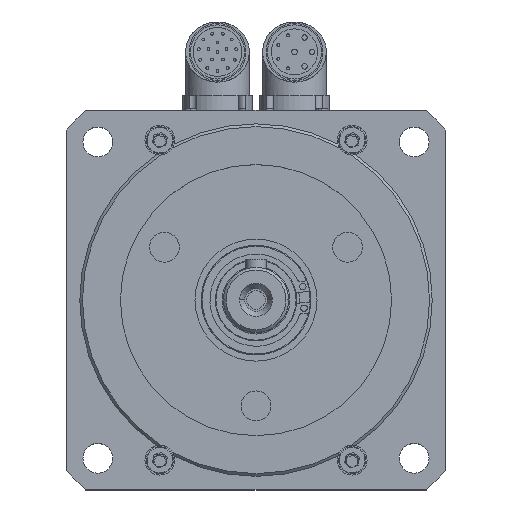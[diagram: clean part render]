
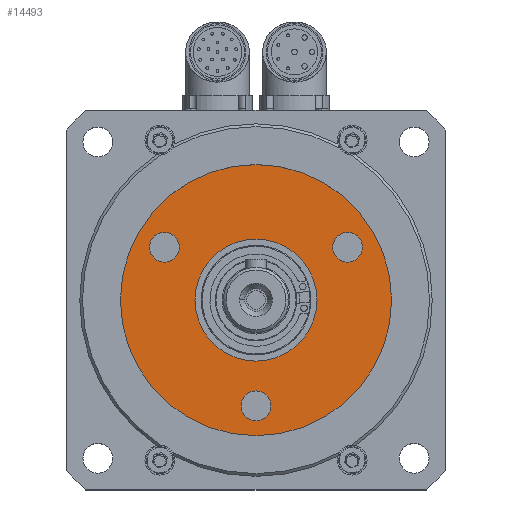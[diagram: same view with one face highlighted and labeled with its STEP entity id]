
A CAD part, top view. The second image highlights one B-rep face of the part: STEP entity #14493.
In plain terms, the highlighted planar face has unit normal (0, 0, 1).
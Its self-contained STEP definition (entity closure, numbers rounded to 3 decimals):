
#413 = AXIS2_PLACEMENT_3D ( 'NONE', #2656, #2657, #2658 ) ;
#414 = AXIS2_PLACEMENT_3D ( 'NONE', #2639, #2654, #2655 ) ;
#415 = AXIS2_PLACEMENT_3D ( 'NONE', #2662, #2663, #2664 ) ;
#416 = AXIS2_PLACEMENT_3D ( 'NONE', #2665, #2666, #2667 ) ;
#536 = AXIS2_PLACEMENT_3D ( 'NONE', #7152, #7153, #7154 ) ;
#539 = AXIS2_PLACEMENT_3D ( 'NONE', #7157, #7166, #7167 ) ;
#542 = AXIS2_PLACEMENT_3D ( 'NONE', #7109, #7163, #7164 ) ;
#546 = AXIS2_PLACEMENT_3D ( 'NONE', #7171, #7178, #7179 ) ;
#548 = AXIS2_PLACEMENT_3D ( 'NONE', #7177, #7184, #7185 ) ;
#550 = AXIS2_PLACEMENT_3D ( 'NONE', #7183, #7190, #7191 ) ;
#2639 = CARTESIAN_POINT ( 'NONE',  ( 33.775, 19.5, 21.5 ) ) ;
#2654 = DIRECTION ( 'NONE',  ( 0., 0., 1. ) ) ;
#2655 = DIRECTION ( 'NONE',  ( 1., 0., 0. ) ) ;
#2656 = CARTESIAN_POINT ( 'NONE',  ( 0., 0., 21.5 ) ) ;
#2657 = DIRECTION ( 'NONE',  ( 0., 0., 1. ) ) ;
#2658 = DIRECTION ( 'NONE',  ( 1., 0., 0. ) ) ;
#2662 = CARTESIAN_POINT ( 'NONE',  ( 0., -39., 21.5 ) ) ;
#2663 = DIRECTION ( 'NONE',  ( 0., 0., 1. ) ) ;
#2664 = DIRECTION ( 'NONE',  ( 1., 0., 0. ) ) ;
#2665 = CARTESIAN_POINT ( 'NONE',  ( -33.775, 19.5, 21.5 ) ) ;
#2666 = DIRECTION ( 'NONE',  ( 0., 0., 1. ) ) ;
#2667 = DIRECTION ( 'NONE',  ( 1., 0., 0. ) ) ;
#2741 = CARTESIAN_POINT ( 'NONE',  ( 22.5, 0., 21.5 ) ) ;
#2742 = CARTESIAN_POINT ( 'NONE',  ( -22.5, 0., 21.5 ) ) ;
#2745 = CARTESIAN_POINT ( 'NONE',  ( 5.5, -39., 21.5 ) ) ;
#2747 = CARTESIAN_POINT ( 'NONE',  ( -5.5, -39., 21.5 ) ) ;
#2749 = CARTESIAN_POINT ( 'NONE',  ( 28.275, 19.5, 21.5 ) ) ;
#2750 = CARTESIAN_POINT ( 'NONE',  ( 39.275, 19.5, 21.5 ) ) ;
#2753 = CARTESIAN_POINT ( 'NONE',  ( -28.275, 19.5, 21.5 ) ) ;
#2754 = CARTESIAN_POINT ( 'NONE',  ( -39.275, 19.5, 21.5 ) ) ;
#2758 = CARTESIAN_POINT ( 'NONE',  ( 50., 0., 21.5 ) ) ;
#2760 = CARTESIAN_POINT ( 'NONE',  ( -50., 0., 21.5 ) ) ;
#7109 = CARTESIAN_POINT ( 'NONE',  ( 0., -39., 21.5 ) ) ;
#7152 = CARTESIAN_POINT ( 'NONE',  ( 0., 0., 21.5 ) ) ;
#7153 = DIRECTION ( 'NONE',  ( 0., 0., 1. ) ) ;
#7154 = DIRECTION ( 'NONE',  ( 1., 0., 0. ) ) ;
#7157 = CARTESIAN_POINT ( 'NONE',  ( 0., 0., 21.5 ) ) ;
#7163 = DIRECTION ( 'NONE',  ( 0., 0., 1. ) ) ;
#7164 = DIRECTION ( 'NONE',  ( 1., 0., 0. ) ) ;
#7166 = DIRECTION ( 'NONE',  ( 0., 0., 1. ) ) ;
#7167 = DIRECTION ( 'NONE',  ( 1., 0., 0. ) ) ;
#7171 = CARTESIAN_POINT ( 'NONE',  ( 33.775, 19.5, 21.5 ) ) ;
#7177 = CARTESIAN_POINT ( 'NONE',  ( -33.775, 19.5, 21.5 ) ) ;
#7178 = DIRECTION ( 'NONE',  ( 0., 0., 1. ) ) ;
#7179 = DIRECTION ( 'NONE',  ( 1., 0., 0. ) ) ;
#7183 = CARTESIAN_POINT ( 'NONE',  ( 0., 0., 21.5 ) ) ;
#7184 = DIRECTION ( 'NONE',  ( 0., 0., 1. ) ) ;
#7185 = DIRECTION ( 'NONE',  ( 1., 0., 0. ) ) ;
#7190 = DIRECTION ( 'NONE',  ( 0., 0., 1. ) ) ;
#7191 = DIRECTION ( 'NONE',  ( 1., 0., 0. ) ) ;
#8546 = PLANE ( 'NONE',  #9762 ) ;
#8547 = CARTESIAN_POINT ( 'NONE',  ( 0., 50., 21.5 ) ) ;
#8551 = DIRECTION ( 'NONE',  ( 0., 0., 1. ) ) ;
#8552 = DIRECTION ( 'NONE',  ( 1., 0., 0. ) ) ;
#9762 = AXIS2_PLACEMENT_3D ( 'NONE', #8547, #8551, #8552 ) ;
#10780 = ORIENTED_EDGE ( 'NONE', *, *, #13107, .F. ) ;
#10781 = ORIENTED_EDGE ( 'NONE', *, *, #11871, .F. ) ;
#10782 = ORIENTED_EDGE ( 'NONE', *, *, #13105, .F. ) ;
#10783 = ORIENTED_EDGE ( 'NONE', *, *, #11867, .F. ) ;
#10784 = ORIENTED_EDGE ( 'NONE', *, *, #13100, .F. ) ;
#10785 = ORIENTED_EDGE ( 'NONE', *, *, #11870, .F. ) ;
#10786 = ORIENTED_EDGE ( 'NONE', *, *, #13109, .T. ) ;
#10787 = ORIENTED_EDGE ( 'NONE', *, *, #11868, .T. ) ;
#10788 = ORIENTED_EDGE ( 'NONE', *, *, #13101, .F. ) ;
#10789 = ORIENTED_EDGE ( 'NONE', *, *, #13096, .F. ) ;
#11524 = EDGE_LOOP ( 'NONE', ( #10788, #10789 ) ) ;
#11525 = EDGE_LOOP ( 'NONE', ( #10786, #10787 ) ) ;
#11526 = EDGE_LOOP ( 'NONE', ( #10784, #10785 ) ) ;
#11527 = EDGE_LOOP ( 'NONE', ( #10782, #10783 ) ) ;
#11529 = EDGE_LOOP ( 'NONE', ( #10780, #10781 ) ) ;
#11867 = EDGE_CURVE ( 'NONE', #12094, #12095, #15291, .T. ) ;
#11868 = EDGE_CURVE ( 'NONE', #12105, #12103, #15293, .T. ) ;
#11870 = EDGE_CURVE ( 'NONE', #12092, #12090, #15295, .T. ) ;
#11871 = EDGE_CURVE ( 'NONE', #12099, #12098, #15297, .T. ) ;
#12086 = VERTEX_POINT ( 'NONE', #2741 ) ;
#12087 = VERTEX_POINT ( 'NONE', #2742 ) ;
#12090 = VERTEX_POINT ( 'NONE', #2745 ) ;
#12092 = VERTEX_POINT ( 'NONE', #2747 ) ;
#12094 = VERTEX_POINT ( 'NONE', #2749 ) ;
#12095 = VERTEX_POINT ( 'NONE', #2750 ) ;
#12098 = VERTEX_POINT ( 'NONE', #2753 ) ;
#12099 = VERTEX_POINT ( 'NONE', #2754 ) ;
#12103 = VERTEX_POINT ( 'NONE', #2758 ) ;
#12105 = VERTEX_POINT ( 'NONE', #2760 ) ;
#13096 = EDGE_CURVE ( 'NONE', #12087, #12086, #13791, .T. ) ;
#13100 = EDGE_CURVE ( 'NONE', #12090, #12092, #13793, .T. ) ;
#13101 = EDGE_CURVE ( 'NONE', #12086, #12087, #13794, .T. ) ;
#13105 = EDGE_CURVE ( 'NONE', #12095, #12094, #13798, .T. ) ;
#13107 = EDGE_CURVE ( 'NONE', #12098, #12099, #13801, .T. ) ;
#13109 = EDGE_CURVE ( 'NONE', #12103, #12105, #13805, .T. ) ;
#13791 = CIRCLE ( 'NONE', #536, 22.5 ) ;
#13793 = CIRCLE ( 'NONE', #542, 5.5 ) ;
#13794 = CIRCLE ( 'NONE', #539, 22.5 ) ;
#13798 = CIRCLE ( 'NONE', #546, 5.5 ) ;
#13801 = CIRCLE ( 'NONE', #548, 5.5 ) ;
#13805 = CIRCLE ( 'NONE', #550, 50. ) ;
#14222 = FACE_BOUND ( 'NONE', #11529, .T. ) ;
#14224 = FACE_BOUND ( 'NONE', #11524, .T. ) ;
#14228 = FACE_BOUND ( 'NONE', #11527, .T. ) ;
#14230 = FACE_BOUND ( 'NONE', #11526, .T. ) ;
#14232 = FACE_OUTER_BOUND ( 'NONE', #11525, .T. ) ;
#14493 = ADVANCED_FACE ( 'NONE', ( #14222, #14228, #14230, #14232, #14224 ), #8546, .T. ) ;
#15291 = CIRCLE ( 'NONE', #414, 5.5 ) ;
#15293 = CIRCLE ( 'NONE', #413, 50. ) ;
#15295 = CIRCLE ( 'NONE', #415, 5.5 ) ;
#15297 = CIRCLE ( 'NONE', #416, 5.5 ) ;
